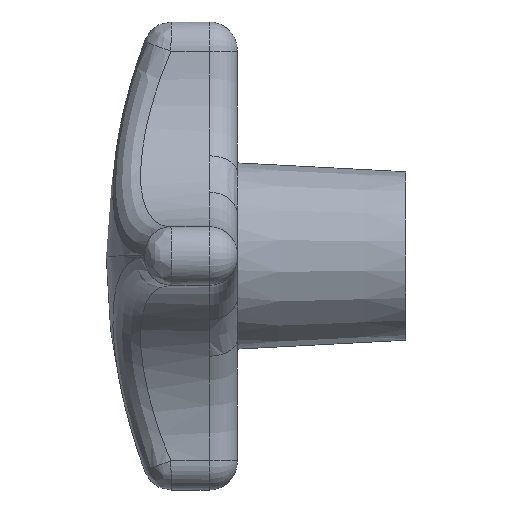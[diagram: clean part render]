
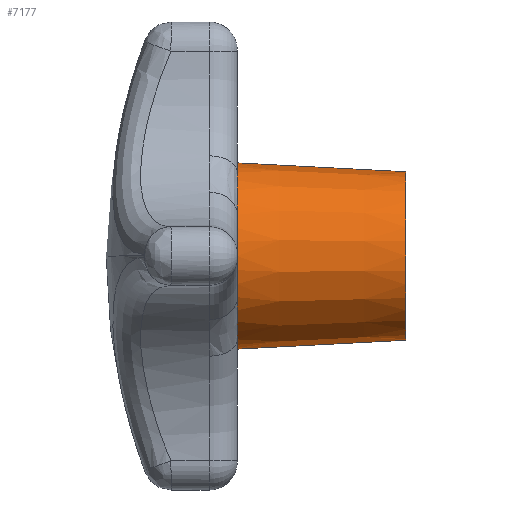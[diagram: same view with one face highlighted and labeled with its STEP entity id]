
A CAD part, left-side view. The second image highlights one B-rep face of the part: STEP entity #7177.
In plain terms, the highlighted conical face has half-angle 3 degrees and reference radius 9 mm.
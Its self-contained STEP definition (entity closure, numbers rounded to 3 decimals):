
#40 = ORIENTED_EDGE ( 'NONE', *, *, #7189, .F. ) ;
#62 = ORIENTED_EDGE ( 'NONE', *, *, #6946, .F. ) ;
#77 = EDGE_CURVE ( 'NONE', #6940, #7184, #391, .T. ) ;
#78 = ORIENTED_EDGE ( 'NONE', *, *, #7183, .F. ) ;
#79 = ORIENTED_EDGE ( 'NONE', *, *, #77, .F. ) ;
#88 = EDGE_CURVE ( 'NONE', #7186, #6899, #385, .T. ) ;
#89 = ORIENTED_EDGE ( 'NONE', *, *, #88, .F. ) ;
#381 = DIRECTION ( 'NONE',  ( 0., 0., 1. ) ) ;
#382 = DIRECTION ( 'NONE',  ( 0., 1., 0. ) ) ;
#383 = CARTESIAN_POINT ( 'NONE',  ( 0., 0., 0. ) ) ;
#384 = AXIS2_PLACEMENT_3D ( 'NONE', #383, #382, #381 ) ;
#385 = CIRCLE ( 'NONE', #384, 9.943 ) ;
#387 = DIRECTION ( 'NONE',  ( 0., 0., 1. ) ) ;
#388 = DIRECTION ( 'NONE',  ( 0., 1., 0. ) ) ;
#389 = CARTESIAN_POINT ( 'NONE',  ( 0., 0., 0. ) ) ;
#390 = AXIS2_PLACEMENT_3D ( 'NONE', #389, #388, #387 ) ;
#391 = CIRCLE ( 'NONE', #390, 9.943 ) ;
#1031 = CARTESIAN_POINT ( 'NONE',  ( 0., -18., -9. ) ) ;
#1032 = CARTESIAN_POINT ( 'NONE',  ( 0., -18., 9. ) ) ;
#2598 = CARTESIAN_POINT ( 'NONE',  ( -4.41, 0., 8.912 ) ) ;
#4000 = DIRECTION ( 'NONE',  ( 0., 0., 1. ) ) ;
#4001 = DIRECTION ( 'NONE',  ( 0., 1., 0. ) ) ;
#4002 = CARTESIAN_POINT ( 'NONE',  ( 0., 0., 0. ) ) ;
#4003 = AXIS2_PLACEMENT_3D ( 'NONE', #4002, #4001, #4000 ) ;
#4004 = CIRCLE ( 'NONE', #4003, 9.943 ) ;
#4010 = CARTESIAN_POINT ( 'NONE',  ( -4.41, 0., -8.912 ) ) ;
#5551 = VERTEX_POINT ( 'NONE', #1032 ) ;
#5557 = VERTEX_POINT ( 'NONE', #1031 ) ;
#6099 = CARTESIAN_POINT ( 'NONE',  ( 0., 0., 9.943 ) ) ;
#6320 = DIRECTION ( 'NONE',  ( 0., 0., 1. ) ) ;
#6321 = DIRECTION ( 'NONE',  ( 0., 1., 0. ) ) ;
#6322 = AXIS2_PLACEMENT_3D ( 'NONE', #6323, #6321, #6320 ) ;
#6323 = CARTESIAN_POINT ( 'NONE',  ( 0., -18., 0. ) ) ;
#6324 = CONICAL_SURFACE ( 'NONE', #6322, 9., 0.052 ) ;
#6325 = FACE_OUTER_BOUND ( 'NONE', #7174, .T. ) ;
#6326 = DIRECTION ( 'NONE',  ( 0., 0., 1. ) ) ;
#6327 = DIRECTION ( 'NONE',  ( 0., 1., 0. ) ) ;
#6328 = CARTESIAN_POINT ( 'NONE',  ( 0., -18., 0. ) ) ;
#6329 = AXIS2_PLACEMENT_3D ( 'NONE', #6328, #6327, #6326 ) ;
#6334 = CIRCLE ( 'NONE', #6329, 9. ) ;
#6344 = DIRECTION ( 'NONE',  ( 0., 0.999, 0.052 ) ) ;
#6345 = VECTOR ( 'NONE', #6344, 1000. ) ;
#6346 = CARTESIAN_POINT ( 'NONE',  ( 0., -18., 9. ) ) ;
#6347 = LINE ( 'NONE', #6346, #6345 ) ;
#6356 = DIRECTION ( 'NONE',  ( 0., 0., 1. ) ) ;
#6357 = DIRECTION ( 'NONE',  ( 0., 1., 0. ) ) ;
#6358 = AXIS2_PLACEMENT_3D ( 'NONE', #6366, #6357, #6356 ) ;
#6359 = CIRCLE ( 'NONE', #6358, 9.943 ) ;
#6366 = CARTESIAN_POINT ( 'NONE',  ( 0., 0., 0. ) ) ;
#6367 = CARTESIAN_POINT ( 'NONE',  ( -8.912, 0., 4.41 ) ) ;
#6368 = CARTESIAN_POINT ( 'NONE',  ( -8.912, 0., -4.41 ) ) ;
#6369 = DIRECTION ( 'NONE',  ( 0., 0., 1. ) ) ;
#6370 = DIRECTION ( 'NONE',  ( 0., 1., 0. ) ) ;
#6371 = CARTESIAN_POINT ( 'NONE',  ( 0., 0., 0. ) ) ;
#6372 = AXIS2_PLACEMENT_3D ( 'NONE', #6371, #6370, #6369 ) ;
#6373 = CIRCLE ( 'NONE', #6372, 9.943 ) ;
#6494 = CARTESIAN_POINT ( 'NONE',  ( 0., 0., -9.943 ) ) ;
#6496 = DIRECTION ( 'NONE',  ( 0., 0.999, -0.052 ) ) ;
#6497 = VECTOR ( 'NONE', #6496, 1000. ) ;
#6498 = CARTESIAN_POINT ( 'NONE',  ( 0., -18., -9. ) ) ;
#6499 = LINE ( 'NONE', #6498, #6497 ) ;
#6899 = VERTEX_POINT ( 'NONE', #2598 ) ;
#6940 = VERTEX_POINT ( 'NONE', #4010 ) ;
#6946 = EDGE_CURVE ( 'NONE', #6899, #7129, #4004, .T. ) ;
#7129 = VERTEX_POINT ( 'NONE', #6099 ) ;
#7168 = ORIENTED_EDGE ( 'NONE', *, *, #7169, .T. ) ;
#7169 = EDGE_CURVE ( 'NONE', #5551, #7129, #6347, .T. ) ;
#7173 = ORIENTED_EDGE ( 'NONE', *, *, #7176, .T. ) ;
#7174 = EDGE_LOOP ( 'NONE', ( #7175, #7173, #7168, #62, #89, #78, #79, #40 ) ) ;
#7175 = ORIENTED_EDGE ( 'NONE', *, *, #7246, .F. ) ;
#7176 = EDGE_CURVE ( 'NONE', #5557, #5551, #6334, .T. ) ;
#7177 = ADVANCED_FACE ( 'NONE', ( #6325 ), #6324, .T. ) ;
#7183 = EDGE_CURVE ( 'NONE', #7184, #7186, #6373, .T. ) ;
#7184 = VERTEX_POINT ( 'NONE', #6368 ) ;
#7186 = VERTEX_POINT ( 'NONE', #6367 ) ;
#7189 = EDGE_CURVE ( 'NONE', #7249, #6940, #6359, .T. ) ;
#7246 = EDGE_CURVE ( 'NONE', #5557, #7249, #6499, .T. ) ;
#7249 = VERTEX_POINT ( 'NONE', #6494 ) ;
